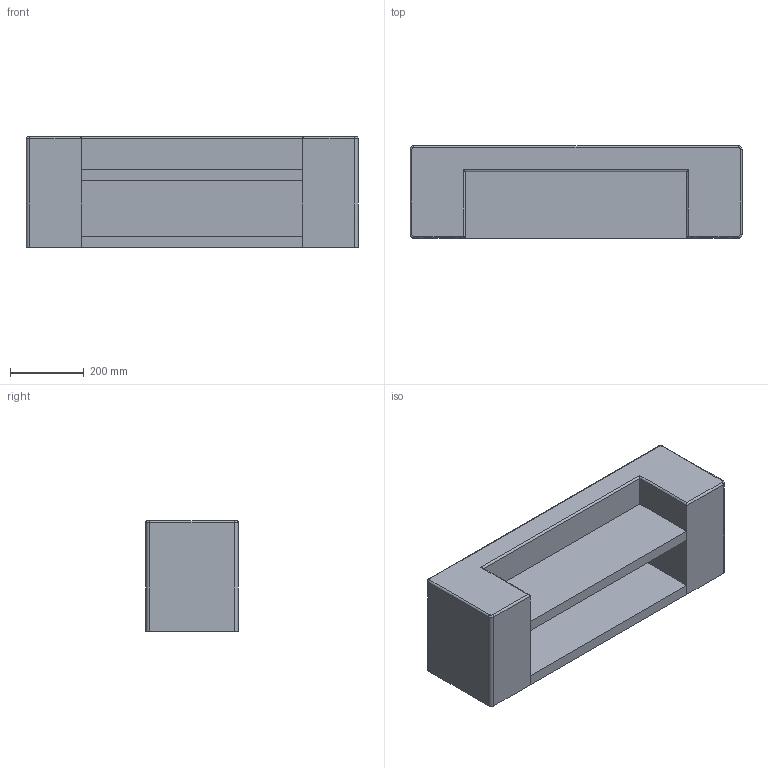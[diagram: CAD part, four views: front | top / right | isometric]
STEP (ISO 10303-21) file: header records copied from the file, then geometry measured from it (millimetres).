
FILE_DESCRIPTION(/* description */ (''),/* implementation_level */ '2;1');
FILE_NAME(/* name */ 'kinoshita_baobabland_k112',/* time_stamp */ '2026-04-02T15:16:49+09:00',/* author */ (''),/* organization */ (''),/* preprocessor_version */ 'ST-DEVELOPER v16.5',/* originating_system */ '',/* authorisation */ '');
FILE_SCHEMA (('AUTOMOTIVE_DESIGN'));
Length unit declared in the file: millimetre
Products named in the file (1): Document
Bounding box: 900 x 250 x 300 mm (x, y, z)
Volume: 41539841.1 mm3; surface area: 1546590.1 mm2
Topology: 3 solids, 3 shells, 38 faces, 84 edges, 52 vertices
Faces by surface type: plane 22, bspline 16
Entity records: 1198 total; most frequent: CARTESIAN_POINT 603, ORIENTED_EDGE 168, EDGE_CURVE 84, B_SPLINE_CURVE_WITH_KNOTS 76, VERTEX_POINT 52, ADVANCED_FACE 38, FACE_OUTER_BOUND 38, EDGE_LOOP 38
